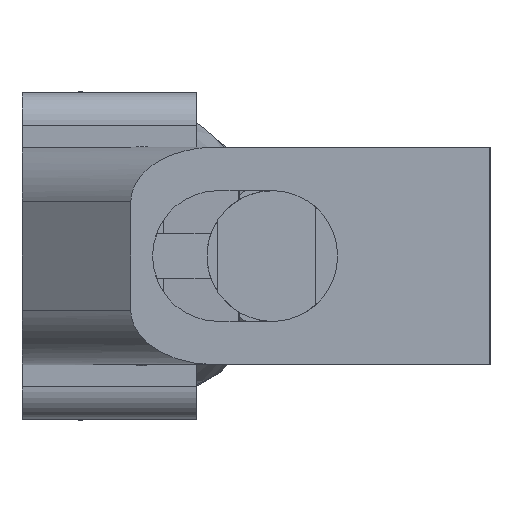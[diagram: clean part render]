
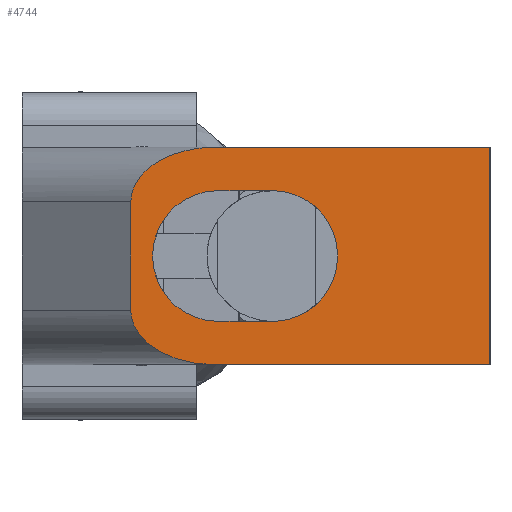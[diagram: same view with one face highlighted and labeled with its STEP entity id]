
A CAD part, left-side view. The second image highlights one B-rep face of the part: STEP entity #4744.
In plain terms, the highlighted planar face has unit normal (-1, 0, 0).
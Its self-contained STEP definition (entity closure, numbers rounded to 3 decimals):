
#155=ELLIPSE('',#5253,7.779,5.);
#158=ELLIPSE('',#5258,7.779,5.);
#376=FACE_BOUND('',#943,.T.);
#440=CIRCLE('',#5234,6.);
#441=CIRCLE('',#5238,6.);
#669=FACE_OUTER_BOUND('',#942,.T.);
#942=EDGE_LOOP('',(#3300,#3301,#3302,#3303,#3304,#3305));
#943=EDGE_LOOP('',(#3306,#3307,#3308,#3309));
#1257=LINE('',#7108,#1628);
#1262=LINE('',#7126,#1633);
#1289=LINE('',#7418,#1660);
#1290=LINE('',#7419,#1661);
#1291=LINE('',#7420,#1662);
#1292=LINE('',#7421,#1663);
#1628=VECTOR('',#5744,10.);
#1633=VECTOR('',#5759,10.);
#1660=VECTOR('',#5856,10.);
#1661=VECTOR('',#5857,10.);
#1662=VECTOR('',#5858,10.);
#1663=VECTOR('',#5859,10.);
#1995=VERTEX_POINT('',#7105);
#1996=VERTEX_POINT('',#7107);
#2003=VERTEX_POINT('',#7123);
#2004=VERTEX_POINT('',#7125);
#2016=VERTEX_POINT('',#7154);
#2017=VERTEX_POINT('',#7156);
#2023=VERTEX_POINT('',#7237);
#2028=VERTEX_POINT('',#7273);
#2041=VERTEX_POINT('',#7398);
#2046=VERTEX_POINT('',#7414);
#2481=EDGE_CURVE('',#1996,#1995,#1257,.T.);
#2490=EDGE_CURVE('',#2004,#2003,#1262,.T.);
#2505=EDGE_CURVE('',#2017,#2016,#440,.T.);
#2517=EDGE_CURVE('',#2023,#2028,#441,.T.);
#2538=EDGE_CURVE('',#2004,#2041,#155,.T.);
#2548=EDGE_CURVE('',#2046,#1995,#158,.T.);
#2549=EDGE_CURVE('',#2003,#1996,#1289,.T.);
#2550=EDGE_CURVE('',#2041,#2046,#1290,.T.);
#2551=EDGE_CURVE('',#2016,#2023,#1291,.T.);
#2552=EDGE_CURVE('',#2028,#2017,#1292,.T.);
#3300=ORIENTED_EDGE('',*,*,#2538,.F.);
#3301=ORIENTED_EDGE('',*,*,#2490,.T.);
#3302=ORIENTED_EDGE('',*,*,#2549,.T.);
#3303=ORIENTED_EDGE('',*,*,#2481,.T.);
#3304=ORIENTED_EDGE('',*,*,#2548,.F.);
#3305=ORIENTED_EDGE('',*,*,#2550,.F.);
#3306=ORIENTED_EDGE('',*,*,#2551,.T.);
#3307=ORIENTED_EDGE('',*,*,#2517,.T.);
#3308=ORIENTED_EDGE('',*,*,#2552,.T.);
#3309=ORIENTED_EDGE('',*,*,#2505,.T.);
#4608=PLANE('',#5259);
#4744=ADVANCED_FACE('',(#669,#376),#4608,.T.);
#5234=AXIS2_PLACEMENT_3D('',#7157,#5786,#5787);
#5238=AXIS2_PLACEMENT_3D('',#7275,#5797,#5798);
#5253=AXIS2_PLACEMENT_3D('',#7399,#5835,#5836);
#5258=AXIS2_PLACEMENT_3D('',#7416,#5852,#5853);
#5259=AXIS2_PLACEMENT_3D('',#7417,#5854,#5855);
#5744=DIRECTION('',(0.,1.,0.));
#5759=DIRECTION('',(0.,-1.,0.));
#5786=DIRECTION('center_axis',(1.,0.,0.));
#5787=DIRECTION('ref_axis',(0.,0.,1.));
#5797=DIRECTION('center_axis',(1.,0.,0.));
#5798=DIRECTION('ref_axis',(0.,0.,-1.));
#5835=DIRECTION('center_axis',(1.,0.,0.));
#5836=DIRECTION('ref_axis',(0.,1.,0.));
#5852=DIRECTION('center_axis',(1.,0.,0.));
#5853=DIRECTION('ref_axis',(0.,1.,0.));
#5854=DIRECTION('center_axis',(-1.,0.,0.));
#5855=DIRECTION('ref_axis',(0.,0.,1.));
#5856=DIRECTION('',(0.,0.,1.));
#5857=DIRECTION('',(0.,0.,1.));
#5858=DIRECTION('',(0.,-1.,0.));
#5859=DIRECTION('',(0.,1.,0.));
#7105=CARTESIAN_POINT('',(-7.77,26.356,20.));
#7107=CARTESIAN_POINT('',(-7.77,1.135,20.));
#7108=CARTESIAN_POINT('',(-7.77,34.135,20.));
#7123=CARTESIAN_POINT('',(-7.77,1.135,0.));
#7125=CARTESIAN_POINT('',(-7.77,26.356,0.));
#7126=CARTESIAN_POINT('',(-7.77,34.135,0.));
#7154=CARTESIAN_POINT('',(-7.77,26.135,16.));
#7156=CARTESIAN_POINT('',(-7.77,26.135,4.));
#7157=CARTESIAN_POINT('Origin',(-7.77,26.135,10.));
#7237=CARTESIAN_POINT('',(-7.77,21.135,16.));
#7273=CARTESIAN_POINT('',(-7.77,21.135,4.));
#7275=CARTESIAN_POINT('Origin',(-7.77,21.135,10.));
#7398=CARTESIAN_POINT('',(-7.77,34.135,5.));
#7399=CARTESIAN_POINT('Origin',(-7.77,26.356,5.));
#7414=CARTESIAN_POINT('',(-7.77,34.135,15.));
#7416=CARTESIAN_POINT('Origin',(-7.77,26.356,15.));
#7417=CARTESIAN_POINT('Origin',(-7.77,1.135,0.));
#7418=CARTESIAN_POINT('',(-7.77,1.135,0.));
#7419=CARTESIAN_POINT('',(-7.77,34.135,0.));
#7420=CARTESIAN_POINT('',(-7.77,11.135,16.));
#7421=CARTESIAN_POINT('',(-7.77,13.635,4.));
